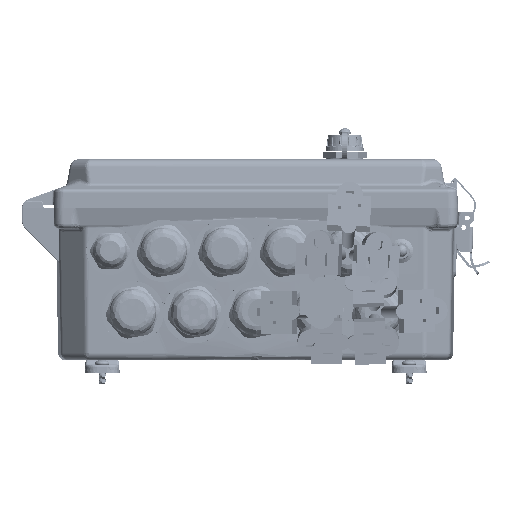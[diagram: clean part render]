
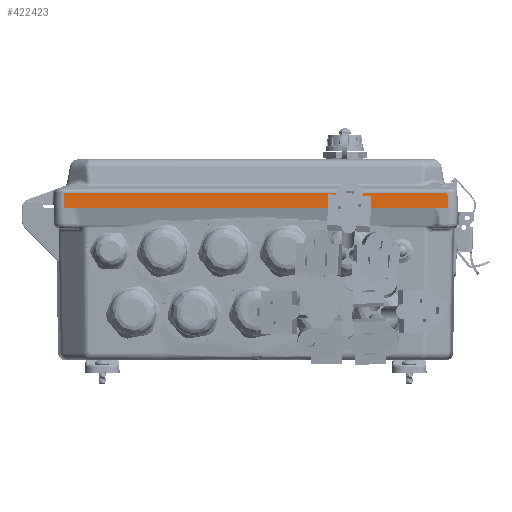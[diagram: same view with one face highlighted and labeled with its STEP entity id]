
A CAD part, front view. The second image highlights one B-rep face of the part: STEP entity #422423.
In plain terms, the highlighted planar face has unit normal (1, -0.021, 0.015) by its records, which use the part's own axes.
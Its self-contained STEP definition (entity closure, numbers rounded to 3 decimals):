
#19733 = EDGE_CURVE ( 'NONE', #233982, #288820, #64823, .T. ) ;
#22797 = VECTOR ( 'NONE', #520005, 1000. ) ;
#32351 = CARTESIAN_POINT ( 'NONE',  ( -242.627, 212.127, 203.579 ) ) ;
#36863 = EDGE_LOOP ( 'NONE', ( #78936, #208756, #95078, #198012 ) ) ;
#64823 = LINE ( 'NONE', #507274, #449036 ) ;
#76273 = LINE ( 'NONE', #32351, #294189 ) ;
#78936 = ORIENTED_EDGE ( 'NONE', *, *, #381491, .T. ) ;
#95078 = ORIENTED_EDGE ( 'NONE', *, *, #19733, .F. ) ;
#114719 = VERTEX_POINT ( 'NONE', #515668 ) ;
#124478 = CARTESIAN_POINT ( 'NONE',  ( -242.9, 203.151, 208.966 ) ) ;
#128145 = DIRECTION ( 'NONE',  ( -1., 0.021, -0.015 ) ) ;
#139695 = CARTESIAN_POINT ( 'NONE',  ( -242.627, 211.547, 202.751 ) ) ;
#141233 = CARTESIAN_POINT ( 'NONE',  ( -242.9, 57.199, 0.584 ) ) ;
#149692 = CARTESIAN_POINT ( 'NONE',  ( -242.627, 65.909, -5.182 ) ) ;
#169953 = EDGE_CURVE ( 'NONE', #114719, #233982, #342919, .T. ) ;
#171151 = CARTESIAN_POINT ( 'NONE',  ( -242.9, 203.151, 208.966 ) ) ;
#172793 = DIRECTION ( 'NONE',  ( -0.021, -1., 0. ) ) ;
#198012 = ORIENTED_EDGE ( 'NONE', *, *, #169953, .F. ) ;
#208756 = ORIENTED_EDGE ( 'NONE', *, *, #452531, .F. ) ;
#208971 = AXIS2_PLACEMENT_3D ( 'NONE', #373515, #128145, #172793 ) ;
#233982 = VERTEX_POINT ( 'NONE', #141233 ) ;
#253475 = PLANE ( 'NONE',  #208971 ) ;
#258771 = DIRECTION ( 'NONE',  ( 0., 0.574, 0.819 ) ) ;
#277666 = DIRECTION ( 'NONE',  ( 0., 0.574, 0.819 ) ) ;
#288820 = VERTEX_POINT ( 'NONE', #124478 ) ;
#294189 = VECTOR ( 'NONE', #277666, 1000. ) ;
#294795 = FACE_OUTER_BOUND ( 'NONE', #36863, .T. ) ;
#342919 = LINE ( 'NONE', #149692, #22797 ) ;
#373515 = CARTESIAN_POINT ( 'NONE',  ( -242.9, 35.69, -30.125 ) ) ;
#381491 = EDGE_CURVE ( 'NONE', #114719, #524551, #76273, .T. ) ;
#386098 = LINE ( 'NONE', #171151, #392264 ) ;
#392264 = VECTOR ( 'NONE', #459267, 1000. ) ;
#422423 = ADVANCED_FACE ( 'NONE', ( #294795 ), #253475, .F. ) ;
#449036 = VECTOR ( 'NONE', #258771, 1000. ) ;
#452531 = EDGE_CURVE ( 'NONE', #288820, #524551, #386098, .T. ) ;
#459267 = DIRECTION ( 'NONE',  ( 0.026, 0.804, -0.595 ) ) ;
#507274 = CARTESIAN_POINT ( 'NONE',  ( -242.9, 57.199, 0.584 ) ) ;
#515668 = CARTESIAN_POINT ( 'NONE',  ( -242.627, 65.909, -5.182 ) ) ;
#520005 = DIRECTION ( 'NONE',  ( -0.026, -0.834, 0.552 ) ) ;
#524551 = VERTEX_POINT ( 'NONE', #139695 ) ;
